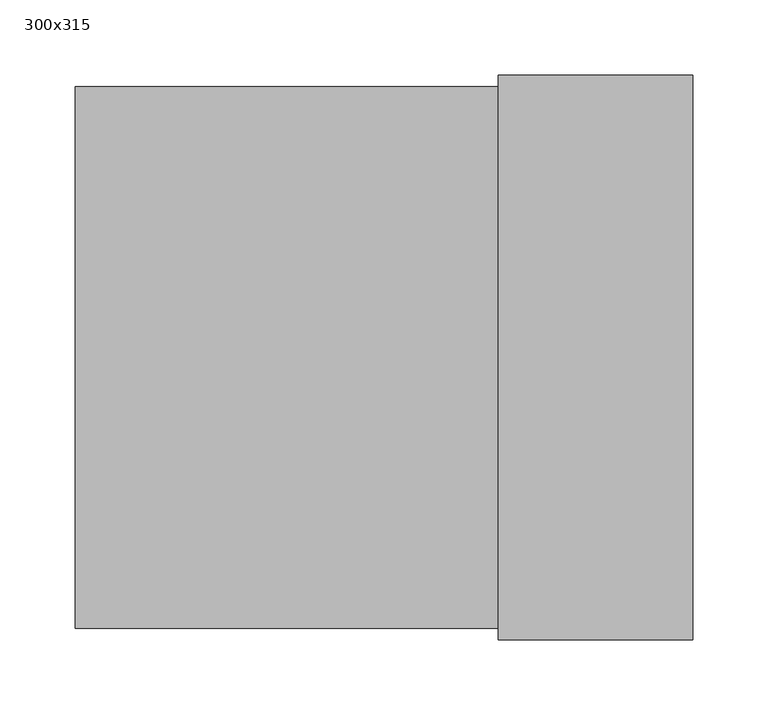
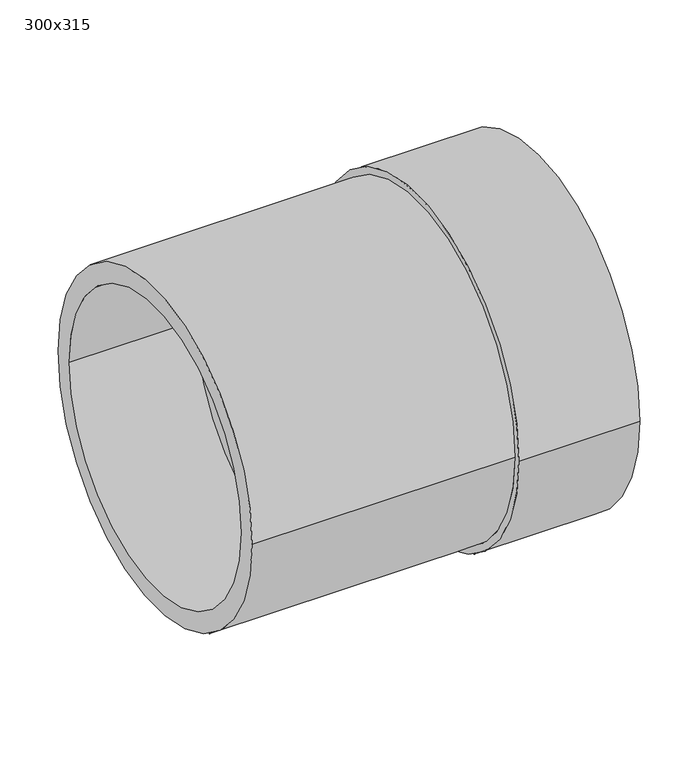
"""IFC4 building model written with IfcOpenShell, lengths in millimetres: pipe fitting geometry, Pipelife - Pragma +ID - Złączka kanalizacyjna : 300x315."""

from ifc_helpers import new_model, si_unit, frame, origin, place, context, project, spatial, polyline, circle_curve, source, transform, mapped, element, save
from ifc_brep_helpers import plane_surface, cylinder_surface, revolved_surface, advanced_brep


def pipe_fitting_300x315_3f0d24aa(model_context):
    return source(origin(), model_context, "Body", "AdvancedBrep", [
        advanced_brep(
        [(0.0, -187.5, 0.0), (0.0, 187.5, 0.0), (0.0, 180.0, 0.0), (0.0, -180.0, 0.0), (129.0, -187.5, 0.0), (129.0, 187.5, 0.0), (129.0, -173.0, 0.0), (129.0, 173.0, 0.0), (12.0, -173.0, 0.0), (12.0, 173.0, 0.0), (-281.0, -180.0, 0.0), (-281.0, 180.0, 0.0), (-281.0, 159.0, 0.0), (-281.0, -159.0, 0.0), (-145.0, -159.0, 0.0), (-145.0, 159.0, 0.0)],
        [
            (0, 1, circle_curve(frame((0.0, 0.0, 0.0), z_axis=(-1.0, 0.0, 0.0), x_axis=(0.0, 1.0, 0.0)), 187.5)),
            (1, 0, circle_curve(frame((0.0, 0.0, 0.0), z_axis=(-1.0, 0.0, 0.0), x_axis=(0.0, 1.0, 0.0)), 187.5)),
            (2, 3, circle_curve(frame((0.0, 0.0, 0.0), z_axis=(1.0, 0.0, 0.0), x_axis=(0.0, 1.0, 0.0)), 180.0)),
            (3, 2, circle_curve(frame((0.0, 0.0, 0.0), z_axis=(1.0, 0.0, 0.0), x_axis=(0.0, 1.0, 0.0)), 180.0)),
            (4, 5, circle_curve(frame((129.0, 0.0, 0.0), z_axis=(1.0, 0.0, 0.0), x_axis=(0.0, 1.0, 0.0)), 187.5)),
            (5, 4, circle_curve(frame((129.0, 0.0, 0.0), z_axis=(1.0, 0.0, 0.0), x_axis=(0.0, 1.0, 0.0)), 187.5)),
            (6, 7, circle_curve(frame((129.0, 0.0, 0.0), z_axis=(-1.0, 0.0, 0.0), x_axis=(0.0, 1.0, 0.0)), 173.0)),
            (7, 6, circle_curve(frame((129.0, 0.0, 0.0), z_axis=(-1.0, 0.0, 0.0), x_axis=(0.0, 1.0, 0.0)), 173.0)),
            (0, 4),
            (5, 1),
            (8, 9, circle_curve(frame((12.0, 0.0, 0.0), z_axis=(1.0, 0.0, 0.0), x_axis=(0.0, 1.0, 0.0)), 173.0)),
            (9, 8, circle_curve(frame((12.0, 0.0, 0.0), z_axis=(1.0, 0.0, 0.0), x_axis=(0.0, 1.0, 0.0)), 173.0)),
            (9, 7),
            (6, 8),
            (10, 11, circle_curve(frame((-281.0, 0.0, 0.0), z_axis=(-1.0, 0.0, 0.0), x_axis=(0.0, 1.0, 0.0)), 180.0)),
            (11, 10, circle_curve(frame((-281.0, 0.0, 0.0), z_axis=(-1.0, 0.0, 0.0), x_axis=(0.0, 1.0, 0.0)), 180.0)),
            (12, 13, circle_curve(frame((-281.0, 0.0, 0.0), z_axis=(1.0, 0.0, 0.0), x_axis=(0.0, 1.0, 0.0)), 159.0)),
            (13, 12, circle_curve(frame((-281.0, 0.0, 0.0), z_axis=(1.0, 0.0, 0.0), x_axis=(0.0, 1.0, 0.0)), 159.0)),
            (10, 3),
            (2, 11),
            (14, 15, circle_curve(frame((-145.0, 0.0, 0.0), z_axis=(-1.0, 0.0, 0.0), x_axis=(0.0, 1.0, 0.0)), 159.0)),
            (15, 14, circle_curve(frame((-145.0, 0.0, 0.0), z_axis=(-1.0, 0.0, 0.0), x_axis=(0.0, 1.0, 0.0)), 159.0)),
            (14, 13),
            (12, 15),
        ],
        [
            plane_surface(frame((0.0, 0.0, 0.0), z_axis=(-1.0, 0.0, 0.0), x_axis=(0.0, 0.0, 1.0))),
            plane_surface(frame((129.0, 0.0, 0.0), z_axis=(1.0, 0.0, 0.0), x_axis=(0.0, 0.0, 1.0))),
            cylinder_surface(frame((0.0, 0.0, 0.0), z_axis=(-1.0, 0.0, 0.0), x_axis=(0.0, 1.0, 0.0)), 187.5),
            plane_surface(frame((12.0, 0.0, 0.0), z_axis=(1.0, 0.0, 0.0), x_axis=(0.0, 0.0, 1.0))),
            revolved_surface(polyline([(12.0, 173.0, 0.0), (129.0, 173.0, 0.0)]), (12.0, 0.0, 0.0), (-1.0, 0.0, 0.0)),
            plane_surface(frame((-281.0, 0.0, 0.0), z_axis=(-1.0, 0.0, 0.0), x_axis=(0.0, 0.0, 1.0))),
            cylinder_surface(frame((-281.0, 0.0, 0.0), z_axis=(-1.0, 0.0, 0.0), x_axis=(0.0, 1.0, 0.0)), 180.0),
            plane_surface(frame((-145.0, 0.0, 0.0), z_axis=(-1.0, 0.0, 0.0), x_axis=(0.0, 0.0, 1.0))),
            revolved_surface(polyline([(-281.0, 159.0, 0.0), (-145.0, 159.0, 0.0)]), (-281.0, 0.0, 0.0), (-1.0, 0.0, 0.0)),
        ],
        [
            (0, [[1, 2], [3, 4]]),
            (1, [[5, 6], [7, 8]]),
            (2, [[-1, 9, -6, 10]]),
            (2, [[-2, -10, -5, -9]]),
            (3, [[11, 12]]),
            (4, [[-12, 13, -7, 14]]),
            (4, [[-11, -14, -8, -13]]),
            (5, [[15, 16], [17, 18]]),
            (6, [[-15, 19, -3, 20]]),
            (6, [[-16, -20, -4, -19]]),
            (7, [[21, 22]]),
            (8, [[-21, 23, -17, 24]]),
            (8, [[-22, -24, -18, -23]]),
        ],
    ),
    ])


if __name__ == "__main__":
    model = new_model("IFC4")
    model_context = context("Model", 3, world=origin())
    ifc_project = project(units=[si_unit("LENGTHUNIT", "METRE", prefix="MILLI")], contexts=[model_context])
    site = spatial("IfcSite", under=ifc_project)
    building = spatial("IfcBuilding", under=site)
    placement = place(None, origin())
    pipe_fitting_300x315_shape = pipe_fitting_300x315_3f0d24aa(model_context)
    element("IfcPipeFitting", 1, ObjectType="Pipelife - Pragma +ID - Złączka kanalizacyjna : 300x315", at=placement, inside=building, context=model_context, shape_type="MappedRepresentation", body=[
        mapped(pipe_fitting_300x315_shape, transform((0.0, 0.0, 0.0), x_axis=(1.0, 0.0, 0.0), y_axis=(0.0, 1.0, 0.0), z_axis=(0.0, 0.0, 1.0))),
    ])
    save(model, "model.ifc")
